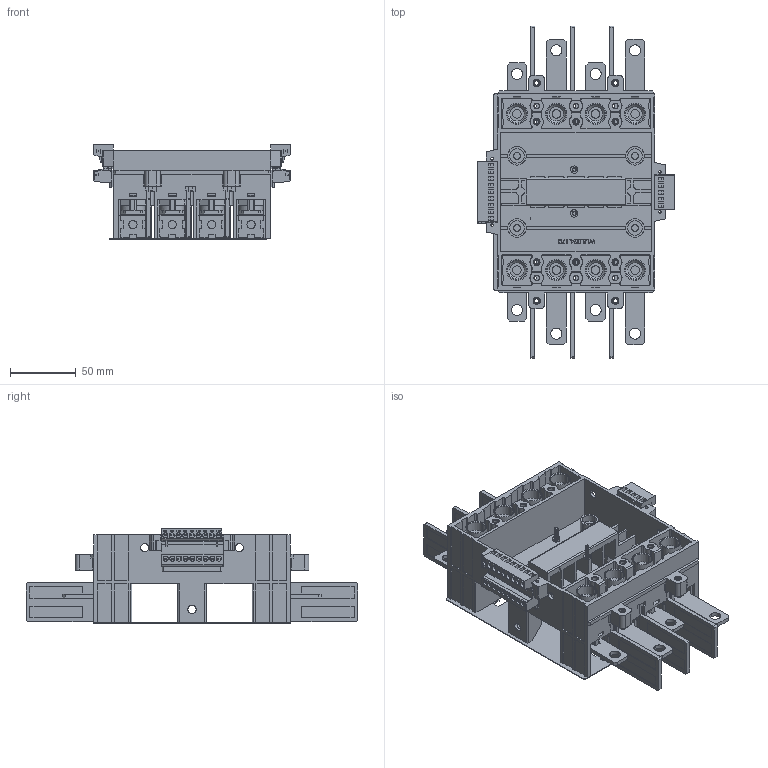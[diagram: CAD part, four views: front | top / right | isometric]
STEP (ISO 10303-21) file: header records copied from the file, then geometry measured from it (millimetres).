
FILE_DESCRIPTION (( 'STEP AP203' ), '1' );
FILE_NAME ('M5-125 160--4P-P1FH.STEP', '2024-11-04T07:49:37', ( 'A' ), ( '' ), 'SwSTEP 2.0', 'SolidWorks 2018', '' );
FILE_SCHEMA (( 'CONFIG_CONTROL_DESIGN' ));
Products named in the file (1): M5-125 160--4P-P1FH
Bounding box: 150.2 x 253 x 72 mm (x, y, z)
Surface area: 327719.9 mm2 (no closed solid volume)
Topology: 0 solids, 45 shells, 4331 faces, 12033 edges, 7943 vertices
Faces by surface type: plane 2919, cylinder 1260, cone 84, bspline 42, torus 22, sphere 4
Entity records: 144277 total; most frequent: CARTESIAN_POINT 31258, ORIENTED_EDGE 23791, DIRECTION 23067, EDGE_CURVE 12017, VECTOR 8995, LINE 8995, VERTEX_POINT 7943, AXIS2_PLACEMENT_3D 7036
